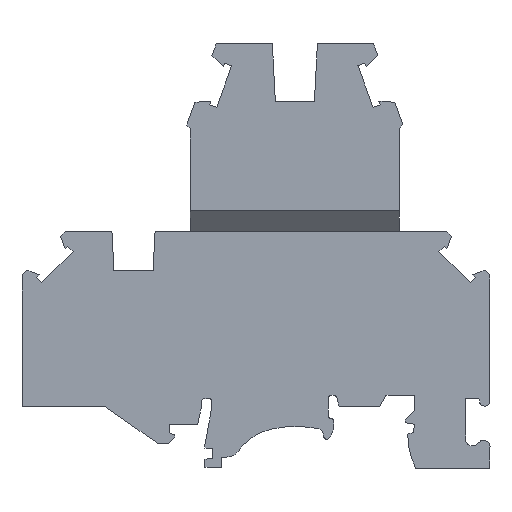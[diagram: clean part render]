
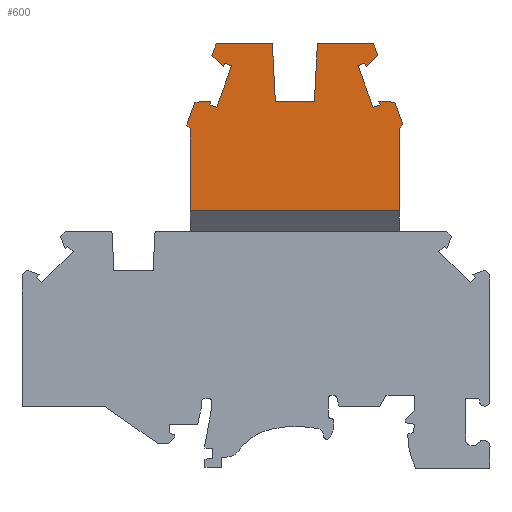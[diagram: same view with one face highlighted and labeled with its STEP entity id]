
A CAD part, left-side view. The second image highlights one B-rep face of the part: STEP entity #600.
In plain terms, the highlighted planar face has unit normal (-1, 0, 0).
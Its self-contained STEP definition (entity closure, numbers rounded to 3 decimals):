
#369=CARTESIAN_POINT('',(0.,28.01,48.925));
#370=DIRECTION('',(0.,1.,0.));
#371=DIRECTION('',(1.,0.,0.));
#372=AXIS2_PLACEMENT_3D('',#369,#371,#370);
#373=PLANE('',#372);
#374=CARTESIAN_POINT('',(0.,24.765,60.9));
#375=VERTEX_POINT('',#374);
#376=CARTESIAN_POINT('',(0.,16.713,60.9));
#377=VERTEX_POINT('',#376);
#378=CARTESIAN_POINT('',(0.,24.765,60.9));
#379=DIRECTION('',(0.,-1.,0.));
#380=VECTOR('',#379,8.052);
#381=LINE('',#378,#380);
#382=EDGE_CURVE('',#375,#377,#381,.T.);
#383=ORIENTED_EDGE('E32',*,*,#382,.T.);
#384=CARTESIAN_POINT('',(0.,16.094,59.198));
#385=VERTEX_POINT('',#384);
#386=CARTESIAN_POINT('',(0.,16.713,60.9));
#387=DIRECTION('',(0.,-0.342,-0.94));
#388=VECTOR('',#387,1.811);
#389=LINE('',#386,#388);
#390=EDGE_CURVE('',#377,#385,#389,.T.);
#391=ORIENTED_EDGE('E33',*,*,#390,.T.);
#392=CARTESIAN_POINT('',(0.,17.756,57.609));
#393=VERTEX_POINT('',#392);
#394=CARTESIAN_POINT('',(0.,16.094,59.198));
#395=DIRECTION('',(0.,0.723,-0.691));
#396=VECTOR('',#395,2.299);
#397=LINE('',#394,#396);
#398=EDGE_CURVE('',#385,#393,#397,.T.);
#399=ORIENTED_EDGE('E34',*,*,#398,.T.);
#400=CARTESIAN_POINT('',(0.,17.936,58.105));
#401=VERTEX_POINT('',#400);
#402=CARTESIAN_POINT('',(0.,17.756,57.609));
#403=DIRECTION('',(0.,0.342,0.94));
#404=VECTOR('',#403,0.528);
#405=LINE('',#402,#404);
#406=EDGE_CURVE('',#393,#401,#405,.T.);
#407=ORIENTED_EDGE('E35',*,*,#406,.T.);
#408=CARTESIAN_POINT('',(0.,18.942,57.739));
#409=VERTEX_POINT('',#408);
#410=CARTESIAN_POINT('',(0.,17.936,58.105));
#411=DIRECTION('',(0.,0.94,-0.342));
#412=VECTOR('',#411,1.07);
#413=LINE('',#410,#412);
#414=EDGE_CURVE('',#401,#409,#413,.T.);
#415=ORIENTED_EDGE('E36',*,*,#414,.T.);
#416=CARTESIAN_POINT('',(0.,16.778,51.795));
#417=VERTEX_POINT('',#416);
#418=CARTESIAN_POINT('',(0.,18.942,57.739));
#419=DIRECTION('',(0.,-0.342,-0.94));
#420=VECTOR('',#419,6.325);
#421=LINE('',#418,#420);
#422=EDGE_CURVE('',#409,#417,#421,.T.);
#423=ORIENTED_EDGE('E37',*,*,#422,.T.);
#424=CARTESIAN_POINT('',(0.,15.773,52.161));
#425=VERTEX_POINT('',#424);
#426=CARTESIAN_POINT('',(0.,16.778,51.795));
#427=DIRECTION('',(0.,-0.94,0.342));
#428=VECTOR('',#427,1.07);
#429=LINE('',#426,#428);
#430=EDGE_CURVE('',#417,#425,#429,.T.);
#431=ORIENTED_EDGE('E38',*,*,#430,.T.);
#432=CARTESIAN_POINT('',(0.,15.953,52.657));
#433=VERTEX_POINT('',#432);
#434=CARTESIAN_POINT('',(0.,15.773,52.161));
#435=DIRECTION('',(0.,0.342,0.94));
#436=VECTOR('',#435,0.528);
#437=LINE('',#434,#436);
#438=EDGE_CURVE('',#425,#433,#437,.T.);
#439=ORIENTED_EDGE('E39',*,*,#438,.T.);
#440=CARTESIAN_POINT('',(0.,13.659,52.508));
#441=VERTEX_POINT('',#440);
#442=CARTESIAN_POINT('',(0.,15.953,52.657));
#443=DIRECTION('',(0.,-0.998,-0.065));
#444=VECTOR('',#443,2.299);
#445=LINE('',#442,#444);
#446=EDGE_CURVE('',#433,#441,#445,.T.);
#447=ORIENTED_EDGE('E40',*,*,#446,.T.);
#448=CARTESIAN_POINT('',(0.,12.491,49.3));
#449=VERTEX_POINT('',#448);
#450=CARTESIAN_POINT('',(0.,13.659,52.508));
#451=DIRECTION('',(0.,-0.342,-0.94));
#452=VECTOR('',#451,3.414);
#453=LINE('',#450,#452);
#454=EDGE_CURVE('',#441,#449,#453,.T.);
#455=ORIENTED_EDGE('E41',*,*,#454,.T.);
#456=CARTESIAN_POINT('',(0.,13.,48.748));
#457=VERTEX_POINT('',#456);
#458=CARTESIAN_POINT('',(0.,12.491,49.3));
#459=DIRECTION('',(0.,0.677,-0.736));
#460=VECTOR('',#459,0.751);
#461=LINE('',#458,#460);
#462=EDGE_CURVE('',#449,#457,#461,.T.);
#463=ORIENTED_EDGE('E42',*,*,#462,.T.);
#464=CARTESIAN_POINT('',(0.,13.,36.95));
#465=VERTEX_POINT('',#464);
#466=CARTESIAN_POINT('',(0.,13.,48.748));
#467=DIRECTION('',(0.,0.,-1.));
#468=VECTOR('',#467,11.798);
#469=LINE('',#466,#468);
#470=EDGE_CURVE('',#457,#465,#469,.T.);
#471=ORIENTED_EDGE('E43',*,*,#470,.T.);
#472=CARTESIAN_POINT('',(0.,43.,36.95));
#473=VERTEX_POINT('',#472);
#474=CARTESIAN_POINT('',(0.,43.,36.95));
#475=DIRECTION('',(0.,-1.,0.));
#476=VECTOR('',#475,30.);
#477=LINE('',#474,#476);
#478=EDGE_CURVE('',#473,#465,#477,.T.);
#479=ORIENTED_EDGE('E44',*,*,#478,.F.);
#480=CARTESIAN_POINT('',(0.,43.,48.686));
#481=VERTEX_POINT('',#480);
#482=CARTESIAN_POINT('',(0.,43.,36.95));
#483=DIRECTION('',(0.,0.,1.));
#484=VECTOR('',#483,11.736);
#485=LINE('',#482,#484);
#486=EDGE_CURVE('',#473,#481,#485,.T.);
#487=ORIENTED_EDGE('E45',*,*,#486,.T.);
#488=CARTESIAN_POINT('',(0.,43.528,49.246));
#489=VERTEX_POINT('',#488);
#490=CARTESIAN_POINT('',(0.,43.,48.686));
#491=DIRECTION('',(0.,0.686,0.727));
#492=VECTOR('',#491,0.77);
#493=LINE('',#490,#492);
#494=EDGE_CURVE('',#481,#489,#493,.T.);
#495=ORIENTED_EDGE('E46',*,*,#494,.T.);
#496=CARTESIAN_POINT('',(0.,42.341,52.508));
#497=VERTEX_POINT('',#496);
#498=CARTESIAN_POINT('',(0.,43.528,49.246));
#499=DIRECTION('',(0.,-0.342,0.94));
#500=VECTOR('',#499,3.471);
#501=LINE('',#498,#500);
#502=EDGE_CURVE('',#489,#497,#501,.T.);
#503=ORIENTED_EDGE('E47',*,*,#502,.T.);
#504=CARTESIAN_POINT('',(0.,40.047,52.657));
#505=VERTEX_POINT('',#504);
#506=CARTESIAN_POINT('',(0.,42.341,52.508));
#507=DIRECTION('',(0.,-0.998,0.065));
#508=VECTOR('',#507,2.299);
#509=LINE('',#506,#508);
#510=EDGE_CURVE('',#497,#505,#509,.T.);
#511=ORIENTED_EDGE('E48',*,*,#510,.T.);
#512=CARTESIAN_POINT('',(0.,40.227,52.161));
#513=VERTEX_POINT('',#512);
#514=CARTESIAN_POINT('',(0.,40.047,52.657));
#515=DIRECTION('',(0.,0.342,-0.94));
#516=VECTOR('',#515,0.528);
#517=LINE('',#514,#516);
#518=EDGE_CURVE('',#505,#513,#517,.T.);
#519=ORIENTED_EDGE('E49',*,*,#518,.T.);
#520=CARTESIAN_POINT('',(0.,39.222,51.795));
#521=VERTEX_POINT('',#520);
#522=CARTESIAN_POINT('',(0.,40.227,52.161));
#523=DIRECTION('',(0.,-0.94,-0.342));
#524=VECTOR('',#523,1.07);
#525=LINE('',#522,#524);
#526=EDGE_CURVE('',#513,#521,#525,.T.);
#527=ORIENTED_EDGE('E50',*,*,#526,.T.);
#528=CARTESIAN_POINT('',(0.,37.058,57.739));
#529=VERTEX_POINT('',#528);
#530=CARTESIAN_POINT('',(0.,39.222,51.795));
#531=DIRECTION('',(0.,-0.342,0.94));
#532=VECTOR('',#531,6.325);
#533=LINE('',#530,#532);
#534=EDGE_CURVE('',#521,#529,#533,.T.);
#535=ORIENTED_EDGE('E51',*,*,#534,.T.);
#536=CARTESIAN_POINT('',(0.,38.064,58.105));
#537=VERTEX_POINT('',#536);
#538=CARTESIAN_POINT('',(0.,37.058,57.739));
#539=DIRECTION('',(0.,0.94,0.342));
#540=VECTOR('',#539,1.07);
#541=LINE('',#538,#540);
#542=EDGE_CURVE('',#529,#537,#541,.T.);
#543=ORIENTED_EDGE('E52',*,*,#542,.T.);
#544=CARTESIAN_POINT('',(0.,38.244,57.609));
#545=VERTEX_POINT('',#544);
#546=CARTESIAN_POINT('',(0.,38.064,58.105));
#547=DIRECTION('',(0.,0.342,-0.94));
#548=VECTOR('',#547,0.528);
#549=LINE('',#546,#548);
#550=EDGE_CURVE('',#537,#545,#549,.T.);
#551=ORIENTED_EDGE('E53',*,*,#550,.T.);
#552=CARTESIAN_POINT('',(0.,39.906,59.198));
#553=VERTEX_POINT('',#552);
#554=CARTESIAN_POINT('',(0.,38.244,57.609));
#555=DIRECTION('',(0.,0.723,0.691));
#556=VECTOR('',#555,2.299);
#557=LINE('',#554,#556);
#558=EDGE_CURVE('',#545,#553,#557,.T.);
#559=ORIENTED_EDGE('E54',*,*,#558,.T.);
#560=CARTESIAN_POINT('',(0.,39.287,60.9));
#561=VERTEX_POINT('',#560);
#562=CARTESIAN_POINT('',(0.,39.906,59.198));
#563=DIRECTION('',(0.,-0.342,0.94));
#564=VECTOR('',#563,1.811);
#565=LINE('',#562,#564);
#566=EDGE_CURVE('',#553,#561,#565,.T.);
#567=ORIENTED_EDGE('E55',*,*,#566,.T.);
#568=CARTESIAN_POINT('',(0.,31.235,60.9));
#569=VERTEX_POINT('',#568);
#570=CARTESIAN_POINT('',(0.,39.287,60.9));
#571=DIRECTION('',(0.,-1.,0.));
#572=VECTOR('',#571,8.052);
#573=LINE('',#570,#572);
#574=EDGE_CURVE('',#561,#569,#573,.T.);
#575=ORIENTED_EDGE('E56',*,*,#574,.T.);
#576=CARTESIAN_POINT('',(0.,30.8,52.6));
#577=VERTEX_POINT('',#576);
#578=CARTESIAN_POINT('',(0.,31.235,60.9));
#579=DIRECTION('',(0.,-0.052,-0.999));
#580=VECTOR('',#579,8.311);
#581=LINE('',#578,#580);
#582=EDGE_CURVE('',#569,#577,#581,.T.);
#583=ORIENTED_EDGE('E57',*,*,#582,.T.);
#584=CARTESIAN_POINT('',(0.,25.2,52.6));
#585=VERTEX_POINT('',#584);
#586=CARTESIAN_POINT('',(0.,30.8,52.6));
#587=DIRECTION('',(0.,-1.,0.));
#588=VECTOR('',#587,5.6);
#589=LINE('',#586,#588);
#590=EDGE_CURVE('',#577,#585,#589,.T.);
#591=ORIENTED_EDGE('E58',*,*,#590,.T.);
#592=CARTESIAN_POINT('',(0.,25.2,52.6));
#593=DIRECTION('',(0.,-0.052,0.999));
#594=VECTOR('',#593,8.311);
#595=LINE('',#592,#594);
#596=EDGE_CURVE('',#585,#375,#595,.T.);
#597=ORIENTED_EDGE('E59',*,*,#596,.T.);
#598=EDGE_LOOP('',(#383,#391,#399,#407,#415,#423,#431,#439,#447,#455,#463,#471,#479,#487,#495,#503,#511,#519,#527,#535,#543,#551,#559,#567,#575,#583,#591,#597));
#599=FACE_OUTER_BOUND('',#598,.F.);
#600=ADVANCED_FACE('F12',(#599),#373,.F.);
